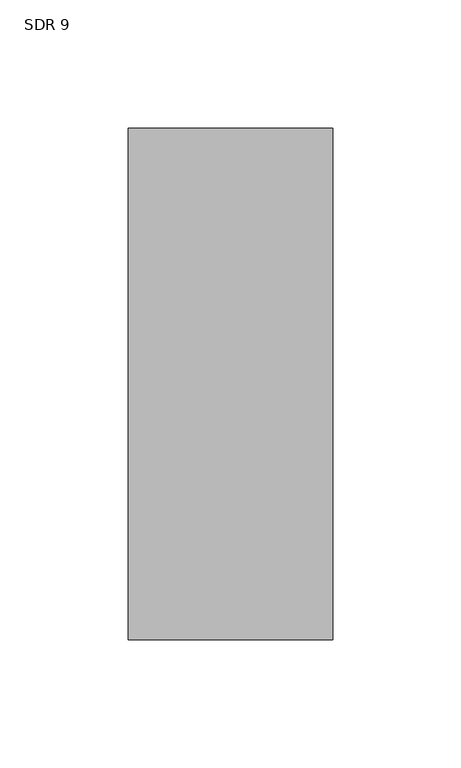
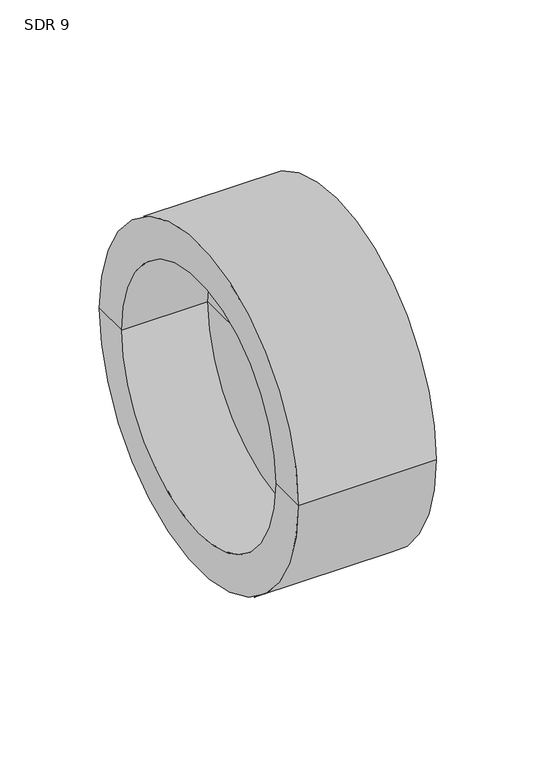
"""IFC4 building model written with IfcOpenShell, lengths in millimetres: pipe fitting geometry, Aquatherm - End Cap Butt-Weld : SDR 9."""

from ifc_helpers import new_model, si_unit, frame, origin, place, context, project, spatial, polyline, circle_curve, source, transform, mapped, element, save
from ifc_brep_helpers import plane_surface, cylinder_surface, revolved_surface, advanced_brep


def sdr_9_8cf61216(model_context):
    return source(origin(), model_context, "Body", "AdvancedBrep", [
        advanced_brep(
        [(80.01, -99.949, 0.0), (80.01, 99.949, 0.0), (80.01, 0.0, 0.0), (50.038, 0.0, 0.0), (50.038, 77.597, 0.0), (50.038, -77.597, 0.0), (0.0, 77.597, 0.0), (0.0, -77.597, 0.0), (0.0, 99.949, 0.0), (0.0, -99.949, 0.0)],
        [
            (0, 1, circle_curve(frame((80.01, 0.0, 0.0), z_axis=(1.0, 0.0, 0.0), x_axis=(0.0, 1.0, 0.0)), 99.949)),
            (1, 2),
            (2, 0),
            (1, 0, circle_curve(frame((80.01, 0.0, 0.0), z_axis=(1.0, 0.0, 0.0), x_axis=(0.0, 1.0, 0.0)), 99.949)),
            (3, 4),
            (4, 5, circle_curve(frame((50.038, 0.0, 0.0), z_axis=(-1.0, 0.0, 0.0), x_axis=(0.0, 1.0, 0.0)), 77.597)),
            (5, 3),
            (5, 4, circle_curve(frame((50.038, 0.0, 0.0), z_axis=(-1.0, 0.0, 0.0), x_axis=(0.0, 1.0, 0.0)), 77.597)),
            (4, 6),
            (6, 7, circle_curve(frame((0.0, 0.0, 0.0), z_axis=(-1.0, 0.0, 0.0), x_axis=(0.0, 1.0, 0.0)), 77.597)),
            (7, 5),
            (7, 6, circle_curve(frame((0.0, 0.0, 0.0), z_axis=(-1.0, 0.0, 0.0), x_axis=(0.0, 1.0, 0.0)), 77.597)),
            (6, 8),
            (8, 9, circle_curve(frame((0.0, 0.0, 0.0), z_axis=(-1.0, 0.0, 0.0), x_axis=(0.0, 1.0, 0.0)), 99.949)),
            (9, 7),
            (9, 8, circle_curve(frame((0.0, 0.0, 0.0), z_axis=(-1.0, 0.0, 0.0), x_axis=(0.0, 1.0, 0.0)), 99.949)),
            (8, 1),
            (0, 9),
        ],
        [
            plane_surface(frame((80.01, 0.0, 0.0), z_axis=(1.0, 0.0, 0.0), x_axis=(0.0, 1.0, 0.0))),
            plane_surface(frame((50.038, 0.0, 0.0), z_axis=(-1.0, 0.0, 0.0), x_axis=(0.0, 1.0, 0.0))),
            revolved_surface(polyline([(0.0, 77.597, 0.0), (50.03800000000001, 77.597, 0.0)]), (-1363.98, 0.0, 0.0), (-1.0, 0.0, 0.0)),
            plane_surface(frame((0.0, 0.0, 0.0), z_axis=(-1.0, 0.0, 0.0), x_axis=(0.0, 1.0, 0.0))),
            cylinder_surface(frame((-1363.98, 0.0, 0.0), z_axis=(-1.0, 0.0, 0.0), x_axis=(0.0, 1.0, 0.0)), 99.949),
        ],
        [
            (0, [[1, 2, 3]]),
            (0, [[4, -3, -2]]),
            (1, [[5, 6, 7]]),
            (1, [[-7, 8, -5]]),
            (2, [[-6, 9, 10, 11]]),
            (2, [[-8, -11, 12, -9]]),
            (3, [[-10, 13, 14, 15]]),
            (3, [[-12, -15, 16, -13]]),
            (4, [[-14, 17, -1, 18]]),
            (4, [[-16, -18, -4, -17]]),
        ],
    ),
    ])


if __name__ == "__main__":
    model = new_model("IFC4")
    model_context = context("Model", 3, world=origin())
    ifc_project = project(units=[si_unit("LENGTHUNIT", "METRE", prefix="MILLI")], contexts=[model_context])
    site = spatial("IfcSite", under=ifc_project)
    building = spatial("IfcBuilding", under=site)
    placement = place(None, origin())
    sdr_9_shape = sdr_9_8cf61216(model_context)
    element("IfcPipeFitting", 1, ObjectType="Aquatherm - End Cap Butt-Weld : SDR 9", at=placement, inside=building, context=model_context, shape_type="MappedRepresentation", body=[
        mapped(sdr_9_shape, transform((0.0, 0.0, 0.0), x_axis=(1.0, 0.0, 0.0), y_axis=(0.0, 1.0, 0.0), z_axis=(0.0, 0.0, 1.0))),
    ])
    save(model, "model.ifc")
